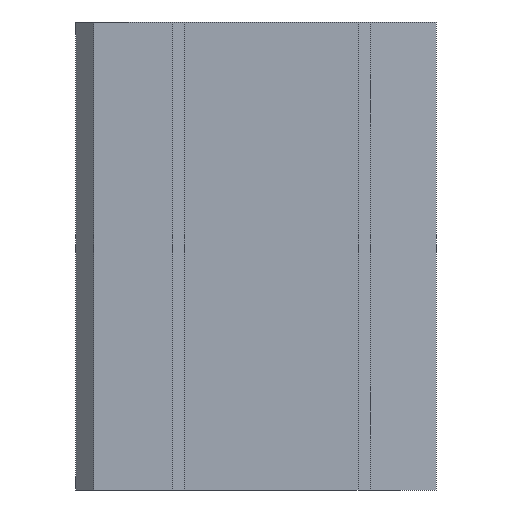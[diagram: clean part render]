
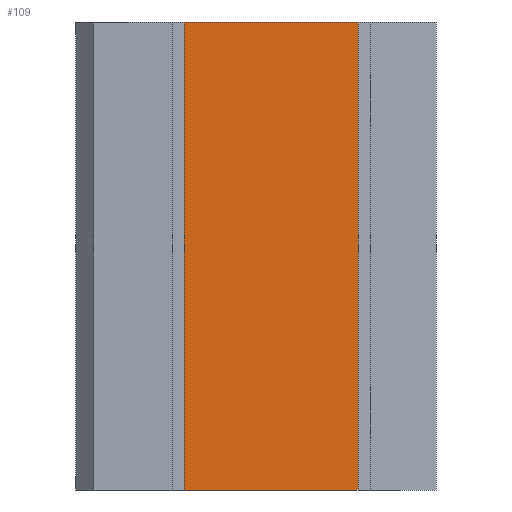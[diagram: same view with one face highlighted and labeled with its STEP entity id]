
A CAD part, left-side view. The second image highlights one B-rep face of the part: STEP entity #109.
In plain terms, the highlighted planar face has unit normal (-1, 0, 0).
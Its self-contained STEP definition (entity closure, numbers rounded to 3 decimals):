
#109=ADVANCED_FACE('',(#230),#231,.F.);
#230=FACE_OUTER_BOUND('',#387,.T.);
#231=PLANE('',#388);
#387=EDGE_LOOP('',(#743,#744,#745,#746));
#388=AXIS2_PLACEMENT_3D('',#747,#748,#749);
#743=ORIENTED_EDGE('',*,*,#1026,.T.);
#744=ORIENTED_EDGE('',*,*,#1054,.F.);
#745=ORIENTED_EDGE('',*,*,#1013,.F.);
#746=ORIENTED_EDGE('',*,*,#1055,.T.);
#747=CARTESIAN_POINT('',(-21.0,6.0,19.5));
#748=DIRECTION('',(1.0,0.0,0.0));
#749=DIRECTION('',(0.0,1.0,0.0));
#1013=EDGE_CURVE('',#1230,#1232,#1233,.T.);
#1026=EDGE_CURVE('',#1257,#1255,#1258,.T.);
#1054=EDGE_CURVE('',#1232,#1255,#1300,.T.);
#1055=EDGE_CURVE('',#1230,#1257,#1301,.T.);
#1230=VERTEX_POINT('',#1510);
#1232=VERTEX_POINT('',#1513);
#1233=LINE('',#1514,#1515);
#1255=VERTEX_POINT('',#1548);
#1257=VERTEX_POINT('',#1551);
#1258=LINE('',#1552,#1553);
#1300=LINE('',#1618,#1619);
#1301=LINE('',#1620,#1621);
#1510=CARTESIAN_POINT('',(-21.0,6.0,19.5));
#1513=CARTESIAN_POINT('',(-21.0,-8.5,19.5));
#1514=CARTESIAN_POINT('',(-21.0,6.0,19.5));
#1515=VECTOR('',#1841,1.0);
#1548=CARTESIAN_POINT('',(-21.0,-8.5,-19.5));
#1551=CARTESIAN_POINT('',(-21.0,6.0,-19.5));
#1552=CARTESIAN_POINT('',(-21.0,6.0,-19.5));
#1553=VECTOR('',#1854,1.0);
#1618=CARTESIAN_POINT('',(-21.0,-8.5,19.5));
#1619=VECTOR('',#1890,1.0);
#1620=CARTESIAN_POINT('',(-21.0,6.0,19.5));
#1621=VECTOR('',#1891,1.0);
#1841=DIRECTION('',(0.0,-1.0,0.0));
#1854=DIRECTION('',(0.0,-1.0,0.0));
#1890=DIRECTION('',(0.0,0.0,-1.0));
#1891=DIRECTION('',(0.0,0.0,-1.0));
